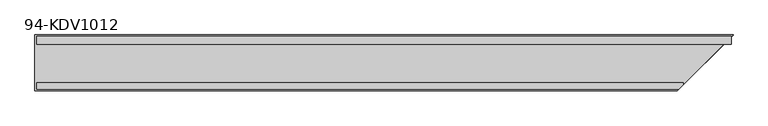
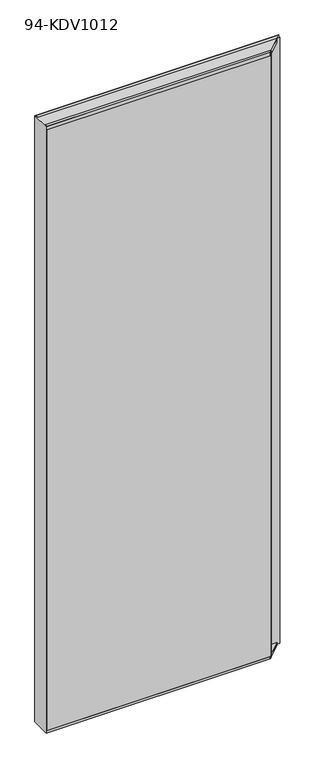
"""IFC4 building model written with IfcOpenShell, lengths in millimetres: plate geometry, PNX_VITRE_DV : 94-KDV1012."""

from ifc_helpers import new_model, si_unit, origin, origin_with_axes, place, context, project, spatial, polyline, outline, extrude, faceted_brep, source, transform, mapped, element, save


def plate_94_kdv1012_aea72202(model_context):
    return source(origin(), model_context, "Body", "SolidModel", [
        extrude(outline(polyline([(-497.0, -39.5), (-497.0, -29.5), (467.2, -29.5), (467.2, -32.8), (460.5, -39.5), (-497.0, -39.5)])), origin_with_axes(), (0.0, 0.0, 1.0), 2739.0),
        extrude(outline(polyline([(538.5, 27.5), (-497.0, 27.5), (-497.0, 39.5), (538.5, 39.5), (538.5, 27.5)])), origin_with_axes(), (0.0, 0.0, 1.0), 2739.0),
        faceted_brep([(541.5, 41.5, 2739.0), (-500.0, 41.5, 2739.0), (-500.0, -41.5, 2739.0), (458.5, -41.5, 2739.0), (-500.0, -41.5, 0.0), (-500.0, 41.5, 0.0), (541.5, 41.5, 0.0), (458.5, -41.5, 0.0), (541.5, 41.5, 2724.0), (-497.0, 41.5, 2724.0), (-497.0, 41.5, 9.0), (541.5, 41.5, 9.0), (458.5, -41.5, 9.0), (-497.0, -41.5, 9.0), (-497.0, -41.5, 2724.0), (458.5, -41.5, 2724.0)], [[[0, 1, 2, 3]], [[4, 5, 6, 7]], [[1, 0, 8, 9, 10, 11, 6, 5]], [[2, 1, 5, 4]], [[2, 4, 7, 12, 13, 14, 15, 3]], [[14, 9, 8, 15]], [[10, 13, 12, 11]], [[9, 14, 13, 10]], [[0, 3, 15, 8]], [[7, 6, 11, 12]]]),
    ])


if __name__ == "__main__":
    model = new_model("IFC4")
    model_context = context("Model", 3, world=origin())
    ifc_project = project(units=[si_unit("LENGTHUNIT", "METRE", prefix="MILLI")], contexts=[model_context])
    site = spatial("IfcSite", under=ifc_project)
    building = spatial("IfcBuilding", under=site)
    placement = place(None, origin())
    plate_94_kdv1012_shape = plate_94_kdv1012_aea72202(model_context)
    element("IfcPlate", 1, ObjectType="PNX_VITRE_DV : 94-KDV1012", at=placement, inside=building, context=model_context, shape_type="MappedRepresentation", body=[
        mapped(plate_94_kdv1012_shape, transform((0.0, 0.0, 0.0), x_axis=(1.0, 0.0, 0.0), y_axis=(0.0, 1.0, 0.0), z_axis=(0.0, 0.0, 1.0))),
    ])
    save(model, "model.ifc")
